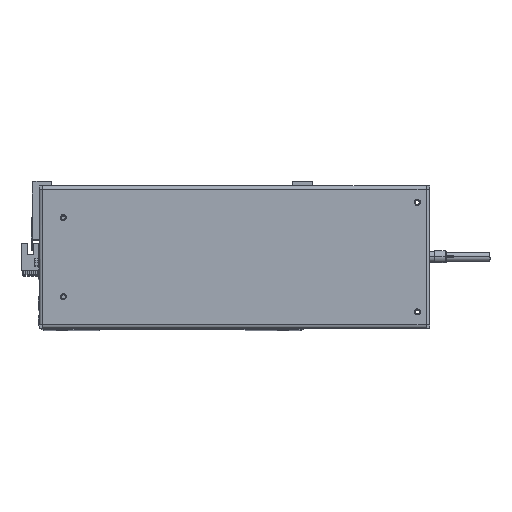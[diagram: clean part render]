
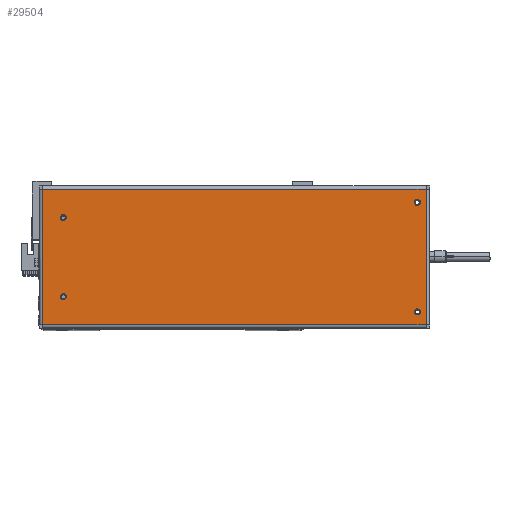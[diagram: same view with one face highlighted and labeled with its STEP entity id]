
A CAD part, top view. The second image highlights one B-rep face of the part: STEP entity #29504.
In plain terms, the highlighted planar face has unit normal (0, 0, 1).
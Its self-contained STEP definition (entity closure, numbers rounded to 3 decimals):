
#724 = CARTESIAN_POINT ( 'NONE',  ( -157.6, 55.6, 0. ) ) ;
#927 = DIRECTION ( 'NONE',  ( 0., 0., -1. ) ) ;
#928 = ORIENTED_EDGE ( 'NONE', *, *, #2263, .T. ) ;
#1532 = VERTEX_POINT ( 'NONE', #28127 ) ;
#1639 = CARTESIAN_POINT ( 'NONE',  ( 153., 45., 0. ) ) ;
#1755 = DIRECTION ( 'NONE',  ( 1., 0., 0. ) ) ;
#2263 = EDGE_CURVE ( 'NONE', #34572, #33445, #24129, .T. ) ;
#2394 = VERTEX_POINT ( 'NONE', #13506 ) ;
#2758 = CIRCLE ( 'NONE', #30955, 2.5 ) ;
#2925 = EDGE_CURVE ( 'NONE', #2394, #11685, #24101, .T. ) ;
#3664 = DIRECTION ( 'NONE',  ( 0., -1., 0. ) ) ;
#3998 = AXIS2_PLACEMENT_3D ( 'NONE', #11289, #10904, #17265 ) ;
#4142 = CARTESIAN_POINT ( 'NONE',  ( 157.6, -55.6, 0. ) ) ;
#5038 = CARTESIAN_POINT ( 'NONE',  ( 150.5, -45., 0. ) ) ;
#5236 = ORIENTED_EDGE ( 'NONE', *, *, #30970, .T. ) ;
#5258 = LINE ( 'NONE', #4142, #27750 ) ;
#5421 = VERTEX_POINT ( 'NONE', #1639 ) ;
#6072 = EDGE_CURVE ( 'NONE', #6265, #1532, #26563, .T. ) ;
#6265 = VERTEX_POINT ( 'NONE', #6881 ) ;
#6881 = CARTESIAN_POINT ( 'NONE',  ( 153., -45., 0. ) ) ;
#7104 = CARTESIAN_POINT ( 'NONE',  ( -143., 32.5, 0. ) ) ;
#7554 = ORIENTED_EDGE ( 'NONE', *, *, #10093, .F. ) ;
#7955 = VERTEX_POINT ( 'NONE', #33905 ) ;
#8035 = DIRECTION ( 'NONE',  ( 1., 0., 0. ) ) ;
#8458 = VECTOR ( 'NONE', #36192, 1000. ) ;
#8497 = VERTEX_POINT ( 'NONE', #22591 ) ;
#8942 = AXIS2_PLACEMENT_3D ( 'NONE', #36699, #22089, #31164 ) ;
#9092 = ORIENTED_EDGE ( 'NONE', *, *, #2925, .T. ) ;
#9523 = FACE_BOUND ( 'NONE', #31234, .T. ) ;
#9582 = AXIS2_PLACEMENT_3D ( 'NONE', #18051, #21117, #35981 ) ;
#10093 = EDGE_CURVE ( 'NONE', #5421, #8497, #21222, .T. ) ;
#10113 = AXIS2_PLACEMENT_3D ( 'NONE', #18451, #30200, #18686 ) ;
#10904 = DIRECTION ( 'NONE',  ( 0., 0., 1. ) ) ;
#11289 = CARTESIAN_POINT ( 'NONE',  ( -140.5, 32.5, 0. ) ) ;
#11685 = VERTEX_POINT ( 'NONE', #23686 ) ;
#11942 = EDGE_LOOP ( 'NONE', ( #20994, #9092, #5236, #928 ) ) ;
#12514 = CARTESIAN_POINT ( 'NONE',  ( 157.7, 55.6, 0. ) ) ;
#12794 = ORIENTED_EDGE ( 'NONE', *, *, #27812, .F. ) ;
#12955 = ORIENTED_EDGE ( 'NONE', *, *, #32489, .F. ) ;
#13390 = DIRECTION ( 'NONE',  ( 0., 0., 1. ) ) ;
#13506 = CARTESIAN_POINT ( 'NONE',  ( -157.6, -55.6, 0. ) ) ;
#14505 = VERTEX_POINT ( 'NONE', #27353 ) ;
#14661 = LINE ( 'NONE', #724, #31565 ) ;
#14971 = VERTEX_POINT ( 'NONE', #24644 ) ;
#15159 = CIRCLE ( 'NONE', #18827, 2.5 ) ;
#15282 = CARTESIAN_POINT ( 'NONE',  ( -157.6, 55.6, 0. ) ) ;
#16820 = DIRECTION ( 'NONE',  ( 0., 0., 1. ) ) ;
#17055 = CIRCLE ( 'NONE', #10113, 2.5 ) ;
#17265 = DIRECTION ( 'NONE',  ( 1., 0., 0. ) ) ;
#17499 = AXIS2_PLACEMENT_3D ( 'NONE', #24456, #927, #36235 ) ;
#17800 = AXIS2_PLACEMENT_3D ( 'NONE', #5038, #25608, #8035 ) ;
#18051 = CARTESIAN_POINT ( 'NONE',  ( -140.5, -32.5, 0. ) ) ;
#18451 = CARTESIAN_POINT ( 'NONE',  ( -140.5, 32.5, 0. ) ) ;
#18686 = DIRECTION ( 'NONE',  ( 1., 0., 0. ) ) ;
#18827 = AXIS2_PLACEMENT_3D ( 'NONE', #25417, #16820, #25812 ) ;
#19051 = ORIENTED_EDGE ( 'NONE', *, *, #6072, .F. ) ;
#19212 = DIRECTION ( 'NONE',  ( 0., 1., 0. ) ) ;
#19763 = EDGE_LOOP ( 'NONE', ( #7554, #12794 ) ) ;
#20013 = VECTOR ( 'NONE', #30038, 1000. ) ;
#20490 = FACE_BOUND ( 'NONE', #27743, .T. ) ;
#20994 = ORIENTED_EDGE ( 'NONE', *, *, #28036, .T. ) ;
#21085 = ORIENTED_EDGE ( 'NONE', *, *, #26743, .F. ) ;
#21117 = DIRECTION ( 'NONE',  ( 0., 0., 1. ) ) ;
#21140 = PLANE ( 'NONE',  #17499 ) ;
#21222 = CIRCLE ( 'NONE', #23076, 2.5 ) ;
#21871 = CIRCLE ( 'NONE', #8942, 2.5 ) ;
#22089 = DIRECTION ( 'NONE',  ( 0., 0., 1. ) ) ;
#22523 = EDGE_CURVE ( 'NONE', #14505, #29191, #33482, .T. ) ;
#22591 = CARTESIAN_POINT ( 'NONE',  ( 148., 45., 0. ) ) ;
#23076 = AXIS2_PLACEMENT_3D ( 'NONE', #28217, #37216, #1755 ) ;
#23686 = CARTESIAN_POINT ( 'NONE',  ( 157.6, -55.6, 0. ) ) ;
#24101 = LINE ( 'NONE', #24284, #8458 ) ;
#24129 = LINE ( 'NONE', #12514, #20013 ) ;
#24228 = ORIENTED_EDGE ( 'NONE', *, *, #29249, .F. ) ;
#24284 = CARTESIAN_POINT ( 'NONE',  ( -157.7, -55.6, 0. ) ) ;
#24456 = CARTESIAN_POINT ( 'NONE',  ( 157.7, 58.5, 0. ) ) ;
#24458 = EDGE_CURVE ( 'NONE', #14971, #7955, #29281, .T. ) ;
#24508 = EDGE_LOOP ( 'NONE', ( #19051, #12955 ) ) ;
#24644 = CARTESIAN_POINT ( 'NONE',  ( -138., -32.5, 0. ) ) ;
#24660 = ORIENTED_EDGE ( 'NONE', *, *, #22523, .F. ) ;
#24900 = CARTESIAN_POINT ( 'NONE',  ( 150.5, 45., 0. ) ) ;
#25417 = CARTESIAN_POINT ( 'NONE',  ( 150.5, -45., 0. ) ) ;
#25608 = DIRECTION ( 'NONE',  ( 0., 0., 1. ) ) ;
#25812 = DIRECTION ( 'NONE',  ( 1., 0., 0. ) ) ;
#25996 = FACE_BOUND ( 'NONE', #24508, .T. ) ;
#26563 = CIRCLE ( 'NONE', #17800, 2.5 ) ;
#26743 = EDGE_CURVE ( 'NONE', #29191, #14505, #17055, .T. ) ;
#27353 = CARTESIAN_POINT ( 'NONE',  ( -138., 32.5, 0. ) ) ;
#27743 = EDGE_LOOP ( 'NONE', ( #24660, #21085 ) ) ;
#27750 = VECTOR ( 'NONE', #19212, 1000. ) ;
#27812 = EDGE_CURVE ( 'NONE', #8497, #5421, #2758, .T. ) ;
#28036 = EDGE_CURVE ( 'NONE', #33445, #2394, #14661, .T. ) ;
#28127 = CARTESIAN_POINT ( 'NONE',  ( 148., -45., 0. ) ) ;
#28217 = CARTESIAN_POINT ( 'NONE',  ( 150.5, 45., 0. ) ) ;
#29191 = VERTEX_POINT ( 'NONE', #7104 ) ;
#29249 = EDGE_CURVE ( 'NONE', #7955, #14971, #21871, .T. ) ;
#29281 = CIRCLE ( 'NONE', #9582, 2.5 ) ;
#29504 = ADVANCED_FACE ( 'NONE', ( #9523, #20490, #25996, #33783, #37893 ), #21140, .F. ) ;
#30038 = DIRECTION ( 'NONE',  ( -1., 0., 0. ) ) ;
#30147 = ORIENTED_EDGE ( 'NONE', *, *, #24458, .F. ) ;
#30200 = DIRECTION ( 'NONE',  ( 0., 0., 1. ) ) ;
#30955 = AXIS2_PLACEMENT_3D ( 'NONE', #24900, #13390, #31035 ) ;
#30970 = EDGE_CURVE ( 'NONE', #11685, #34572, #5258, .T. ) ;
#31035 = DIRECTION ( 'NONE',  ( 1., 0., 0. ) ) ;
#31164 = DIRECTION ( 'NONE',  ( 1., 0., 0. ) ) ;
#31234 = EDGE_LOOP ( 'NONE', ( #30147, #24228 ) ) ;
#31565 = VECTOR ( 'NONE', #3664, 1000. ) ;
#32489 = EDGE_CURVE ( 'NONE', #1532, #6265, #15159, .T. ) ;
#33445 = VERTEX_POINT ( 'NONE', #15282 ) ;
#33482 = CIRCLE ( 'NONE', #3998, 2.5 ) ;
#33783 = FACE_BOUND ( 'NONE', #19763, .T. ) ;
#33905 = CARTESIAN_POINT ( 'NONE',  ( -143., -32.5, 0. ) ) ;
#34572 = VERTEX_POINT ( 'NONE', #34703 ) ;
#34703 = CARTESIAN_POINT ( 'NONE',  ( 157.6, 55.6, 0. ) ) ;
#35981 = DIRECTION ( 'NONE',  ( 1., 0., 0. ) ) ;
#36192 = DIRECTION ( 'NONE',  ( 1., 0., 0. ) ) ;
#36235 = DIRECTION ( 'NONE',  ( -1., 0., 0. ) ) ;
#36699 = CARTESIAN_POINT ( 'NONE',  ( -140.5, -32.5, 0. ) ) ;
#37216 = DIRECTION ( 'NONE',  ( 0., 0., 1. ) ) ;
#37893 = FACE_OUTER_BOUND ( 'NONE', #11942, .T. ) ;
